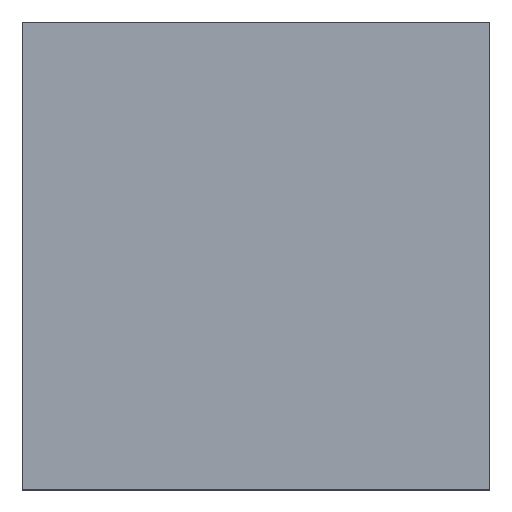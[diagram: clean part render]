
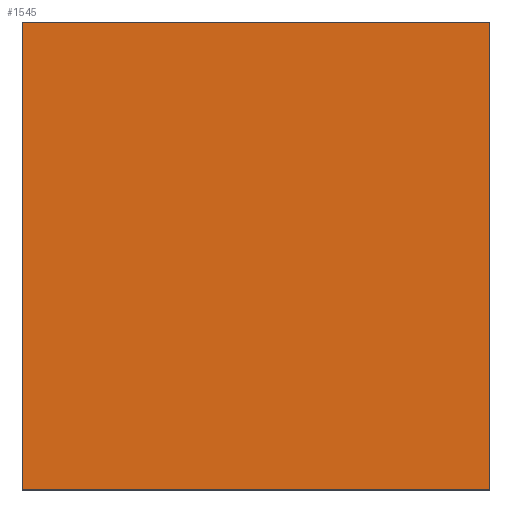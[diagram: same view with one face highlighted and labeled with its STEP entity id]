
A CAD part, top view. The second image highlights one B-rep face of the part: STEP entity #1545.
In plain terms, the highlighted planar face has unit normal (0, 0, 1).
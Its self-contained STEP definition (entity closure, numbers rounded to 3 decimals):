
#6 = LINE ( 'NONE', #253, #900 ) ;
#23 = ORIENTED_EDGE ( 'NONE', *, *, #551, .T. ) ;
#86 = LINE ( 'NONE', #939, #1015 ) ;
#224 = CARTESIAN_POINT ( 'NONE',  ( -25., 25., 10. ) ) ;
#228 = VERTEX_POINT ( 'NONE', #1500 ) ;
#233 = DIRECTION ( 'NONE',  ( -1., 0., 0. ) ) ;
#253 = CARTESIAN_POINT ( 'NONE',  ( -25., -25., 10. ) ) ;
#266 = ORIENTED_EDGE ( 'NONE', *, *, #1505, .T. ) ;
#278 = DIRECTION ( 'NONE',  ( 0., 1., 0. ) ) ;
#339 = VERTEX_POINT ( 'NONE', #580 ) ;
#381 = VECTOR ( 'NONE', #278, 1000. ) ;
#415 = VERTEX_POINT ( 'NONE', #831 ) ;
#419 = DIRECTION ( 'NONE',  ( 1., 0., 0. ) ) ;
#551 = EDGE_CURVE ( 'NONE', #228, #339, #1323, .T. ) ;
#558 = DIRECTION ( 'NONE',  ( 0., 0., 1. ) ) ;
#568 = VECTOR ( 'NONE', #233, 1000. ) ;
#578 = CARTESIAN_POINT ( 'NONE',  ( 25., -25., 10. ) ) ;
#580 = CARTESIAN_POINT ( 'NONE',  ( -25., 25., 10. ) ) ;
#619 = ORIENTED_EDGE ( 'NONE', *, *, #636, .T. ) ;
#636 = EDGE_CURVE ( 'NONE', #1171, #228, #1129, .T. ) ;
#686 = EDGE_CURVE ( 'NONE', #415, #1171, #6, .T. ) ;
#689 = ORIENTED_EDGE ( 'NONE', *, *, #686, .T. ) ;
#732 = DIRECTION ( 'NONE',  ( 1., 0., 0. ) ) ;
#831 = CARTESIAN_POINT ( 'NONE',  ( -25., -25., 10. ) ) ;
#900 = VECTOR ( 'NONE', #732, 1000. ) ;
#919 = DIRECTION ( 'NONE',  ( 0., -1., 0. ) ) ;
#939 = CARTESIAN_POINT ( 'NONE',  ( -25., 25., 10. ) ) ;
#942 = EDGE_LOOP ( 'NONE', ( #266, #689, #619, #23 ) ) ;
#1005 = CARTESIAN_POINT ( 'NONE',  ( 25., 25., 10. ) ) ;
#1015 = VECTOR ( 'NONE', #919, 1000. ) ;
#1129 = LINE ( 'NONE', #1005, #381 ) ;
#1148 = AXIS2_PLACEMENT_3D ( 'NONE', #1527, #558, #419 ) ;
#1168 = FACE_OUTER_BOUND ( 'NONE', #942, .T. ) ;
#1171 = VERTEX_POINT ( 'NONE', #578 ) ;
#1323 = LINE ( 'NONE', #224, #568 ) ;
#1500 = CARTESIAN_POINT ( 'NONE',  ( 25., 25., 10. ) ) ;
#1505 = EDGE_CURVE ( 'NONE', #339, #415, #86, .T. ) ;
#1527 = CARTESIAN_POINT ( 'NONE',  ( 0., 0., 10. ) ) ;
#1533 = PLANE ( 'NONE',  #1148 ) ;
#1545 = ADVANCED_FACE ( 'NONE', ( #1168 ), #1533, .T. ) ;
